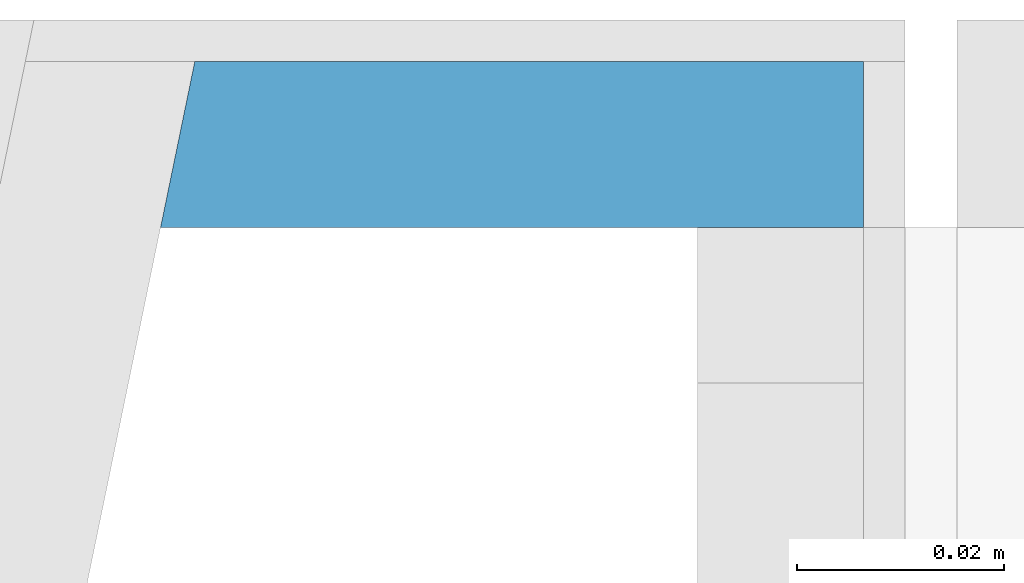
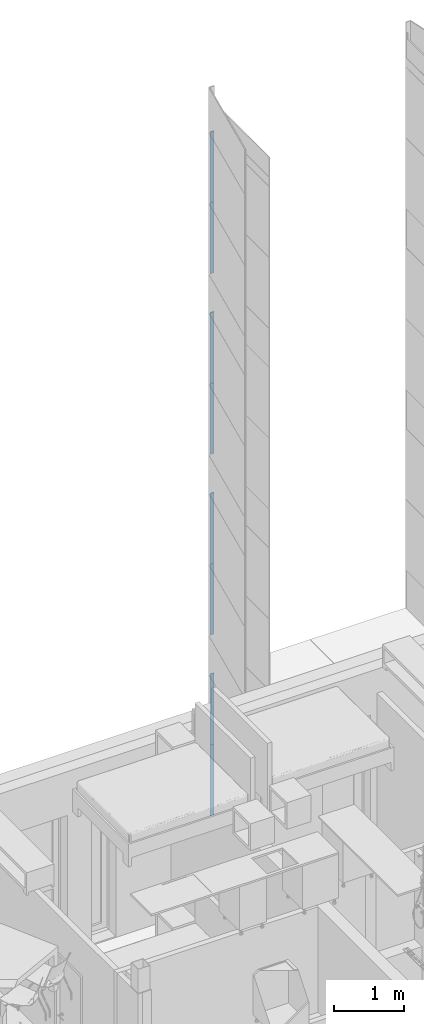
# One storey, part 20 of 125: 8 building element parts, 1 element without a shape of its own.
"""IFC2X3 building model written with IfcOpenShell, lengths in millimetres."""

from ifc_helpers import new_model, entity, si_unit, converted_unit, direction, frame, origin, place, context, subcontext, project, spatial, polyline, outline, extrude, material, type_object, element, aggregate, save


model = new_model("IFC2X3")

# Units and contexts
model_context = context("Model", 3, precision=0.01, world=origin(), true_north=direction((6.123233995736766e-17, 1.0)))
plan_context = context("Plan", 3, precision=0.01, world=origin(), true_north=direction((6.123233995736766e-17, 1.0)))
body_context = subcontext(model_context, "Body", "Model", "MODEL_VIEW")
ifc_project = project(units=[si_unit("LENGTHUNIT", "METRE", prefix="MILLI"), converted_unit("PLANEANGLEUNIT", "DEGREE", entity("IfcPlaneAngleMeasure", 0.017453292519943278), si_unit("PLANEANGLEUNIT", "RADIAN"), dimensions=[0, 0, 0, 0, 0, 0, 0]), si_unit("AREAUNIT", "SQUARE_METRE")], contexts=[model_context, plan_context])

# Site, building, storey
site_placement = place(None, origin())
site = spatial("IfcSite", under=ifc_project, at=site_placement, Name="Default", CompositionType="ELEMENT")
building_placement = place(site_placement, origin())
building = spatial("IfcBuilding", under=site, at=building_placement, CompositionType="ELEMENT")
storey_placement = place(building_placement, frame((0.0, 0.0, 3125.0)))
storey = spatial("IfcBuildingStorey", under=building, at=storey_placement, Name="2K", CompositionType="ELEMENT", Elevation=3125.0)

# Wall, building element parts
wall_type = type_object("IfcWallType", Name="Basic Wall:VS-komposiit", PredefinedType="STANDARD")
wall_placement = place(storey_placement, frame((4963.640832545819, 17442.0, -1010.0)))
wall = element("IfcWall", 1, at=wall_placement, inside=storey, type_object=wall_type, Name="Basic Wall:VS-komposiit", ObjectType="Basic Wall:VS-komposiit")
ifc_material = material(Name="_K. Õhk. Roov. Fassaadikatte alusroov. Horisontaalne. 25 mm")
building_element_part_1_placement = place(wall_placement, origin())
building_element_part_1 = element("IfcBuildingElementPart", 2, at=building_element_part_1_placement, material=ifc_material, Name="Part", context=body_context, shape_type="SweptSolid", body=[
    extrude(outline(polyline([(-34.7128112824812, -8.0), (33.06294461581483, -8.0), (33.06294461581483, 8.0), (-31.41307794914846, 8.0), (-34.7128112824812, -8.0)])), frame((34.7128112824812, -2.0, 927.499999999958)), (0.0, 0.0, 1.0), 1240.0000000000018),
])
building_element_part_2_placement = place(wall_placement, origin())
building_element_part_2 = element("IfcBuildingElementPart", 3, at=building_element_part_2_placement, material=ifc_material, Name="Part", context=body_context, shape_type="SweptSolid", body=[
    extrude(outline(polyline([(-34.7128112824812, -8.0), (33.06294461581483, -8.0), (33.06294461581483, 8.0), (-31.41307794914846, 8.0), (-34.7128112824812, -8.0)])), frame((34.7128112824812, -2.0, 4097.499999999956)), (0.0, 0.0, 1.0), 1240.0000000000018),
])
building_element_part_3_placement = place(wall_placement, origin())
building_element_part_3 = element("IfcBuildingElementPart", 4, at=building_element_part_3_placement, material=ifc_material, Name="Part", context=body_context, shape_type="SweptSolid", body=[
    extrude(outline(polyline([(-34.7128112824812, -8.0), (33.062944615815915, -8.0), (33.06294461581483, 8.0), (-31.41307794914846, 8.0), (-34.7128112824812, -8.0)])), frame((34.7128112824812, -2.0, 2172.4999999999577)), (0.0, 0.0, 1.0), 1240.000000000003),
])
building_element_part_4_placement = place(wall_placement, origin())
building_element_part_4 = element("IfcBuildingElementPart", 5, at=building_element_part_4_placement, material=ifc_material, Name="Part", context=body_context, shape_type="SweptSolid", body=[
    extrude(outline(polyline([(-34.7128112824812, -8.0), (33.06294461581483, -8.0), (33.06294461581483, 8.0), (-31.41307794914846, 8.0), (-34.7128112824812, -8.0)])), frame((34.7128112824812, -2.0, 5342.499999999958)), (0.0, 0.0, 1.0), 1240.0000000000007),
])
building_element_part_5_placement = place(wall_placement, origin())
building_element_part_5 = element("IfcBuildingElementPart", 6, at=building_element_part_5_placement, material=ifc_material, Name="Part", context=body_context, shape_type="SweptSolid", body=[
    extrude(outline(polyline([(-34.7128112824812, -8.0), (33.06294461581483, -8.0), (33.06294461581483, 8.0), (-31.41307794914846, 8.0), (-34.7128112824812, -8.0)])), frame((34.7128112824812, -2.0, 8512.499999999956)), (0.0, 0.0, 1.0), 1240.0000000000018),
])
building_element_part_6_placement = place(wall_placement, origin())
building_element_part_6 = element("IfcBuildingElementPart", 7, at=building_element_part_6_placement, material=ifc_material, Name="Part", context=body_context, shape_type="SweptSolid", body=[
    extrude(outline(polyline([(-34.7128112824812, -8.0), (33.06294461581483, -8.0), (33.06294461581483, 8.0), (-31.41307794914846, 8.0), (-34.7128112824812, -8.0)])), frame((34.7128112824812, -2.0, 7267.4999999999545)), (0.0, 0.0, 1.0), 1240.000000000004),
])
building_element_part_7_placement = place(wall_placement, origin())
building_element_part_7 = element("IfcBuildingElementPart", 8, at=building_element_part_7_placement, material=ifc_material, Name="Part", context=body_context, shape_type="SweptSolid", body=[
    extrude(outline(polyline([(-34.7128112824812, -8.0), (33.06294461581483, -8.0), (33.06294461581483, 8.0), (-31.41307794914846, 8.0), (-34.7128112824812, -8.0)])), frame((34.7128112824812, -2.0, 10437.499999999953)), (0.0, 0.0, 1.0), 1240.000000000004),
])
building_element_part_8_placement = place(wall_placement, origin())
building_element_part_8 = element("IfcBuildingElementPart", 9, at=building_element_part_8_placement, material=ifc_material, Name="Part", context=body_context, shape_type="SweptSolid", body=[
    extrude(outline(polyline([(-34.7128112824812, -8.0), (33.06294461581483, -8.0), (33.06294461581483, 8.0), (-31.41307794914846, 8.0), (-34.7128112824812, -8.0)])), frame((34.7128112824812, -2.0, 11682.499999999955)), (0.0, 0.0, 1.0), 1240.000000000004),
])
aggregate(wall, [building_element_part_1, building_element_part_2, building_element_part_3, building_element_part_4, building_element_part_5, building_element_part_6, building_element_part_7, building_element_part_8])

save(model, "model.ifc")
